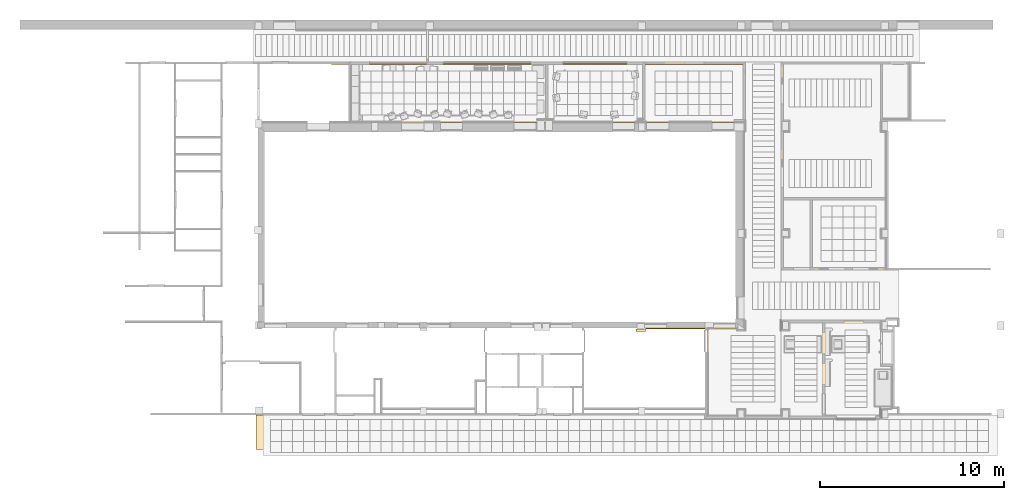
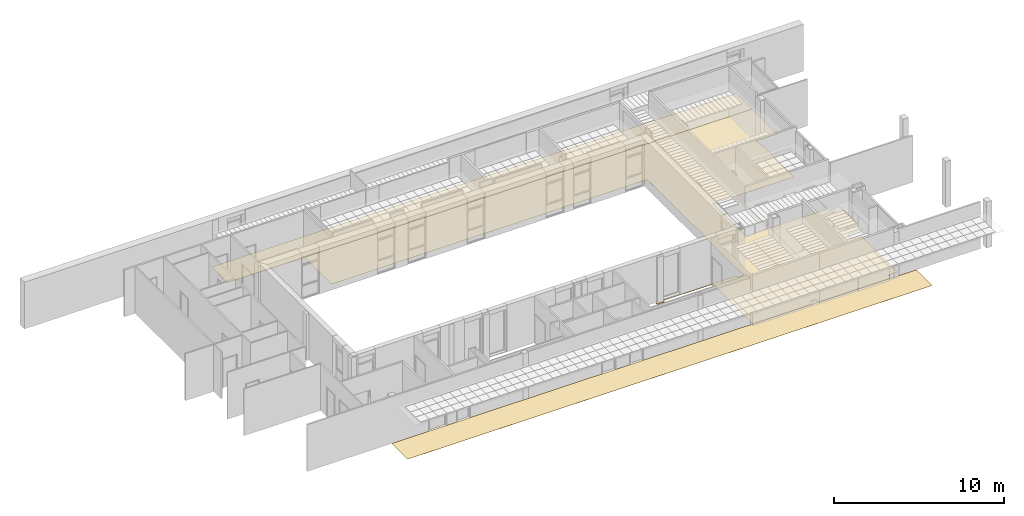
# One storey, part 56 of 60: 4 coverings.
"""IFC2X3 building model written with IfcOpenShell, lengths in millimetres."""

from ifc_helpers import new_model, entity, si_unit, converted_unit, derived_unit, money_unit, direction, frame, origin_with_axes, place, context, subcontext, project, spatial, polyline, outline, extrude, material, type_object, element, save


model = new_model("IFC2X3")

# Units and contexts
model_context = context("Model", 3, precision=0.01, world=origin_with_axes(), true_north=direction((0.0, 1.0)))
body_context = subcontext(model_context, "Body", "Model", "MODEL_VIEW")
ifc_project = project(units=[si_unit("LENGTHUNIT", "METRE", prefix="MILLI"), si_unit("AREAUNIT", "SQUARE_METRE"), si_unit("VOLUMEUNIT", "CUBIC_METRE"), converted_unit("PLANEANGLEUNIT", "DEGREE", entity("IfcPlaneAngleMeasure", 0.0174532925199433), si_unit("PLANEANGLEUNIT", "RADIAN"), dimensions=[0, 0, 0, 0, 0, 0, 0]), money_unit("USD"), converted_unit("TIMEUNIT", "Year", entity("IfcTimeMeasure", 31557600.0), si_unit("TIMEUNIT", "SECOND"), dimensions=[0, 0, 1, 0, 0, 0, 0]), si_unit("MASSUNIT", "GRAM", prefix="KILO"), si_unit("THERMODYNAMICTEMPERATUREUNIT", "DEGREE_CELSIUS"), si_unit("LUMINOUSINTENSITYUNIT", "LUMEN"), si_unit("ENERGYUNIT", "JOULE", prefix="MEGA"), derived_unit("THERMALCONDUCTANCEUNIT", [(si_unit("POWERUNIT", "WATT"), 1), (si_unit("LENGTHUNIT", "METRE"), -1), (si_unit("THERMODYNAMICTEMPERATUREUNIT", "KELVIN"), -1)]), derived_unit("SPECIFICHEATCAPACITYUNIT", [(si_unit("ENERGYUNIT", "JOULE"), 1), (si_unit("MASSUNIT", "GRAM", prefix="KILO"), -1), (si_unit("THERMODYNAMICTEMPERATUREUNIT", "KELVIN"), -1)]), derived_unit("MASSDENSITYUNIT", [(si_unit("MASSUNIT", "GRAM", prefix="KILO"), 1), (si_unit("VOLUMEUNIT", "CUBIC_METRE"), -1)])], contexts=[model_context])

# Site, building, storey
site_placement = place(None, origin_with_axes())
site = spatial("IfcSite", under=ifc_project, at=site_placement, Name="Sitio", CompositionType="ELEMENT")
building_placement = place(site_placement, origin_with_axes())
building = spatial("IfcBuilding", under=site, at=building_placement, Name="Construcción", CompositionType="ELEMENT")
storey_placement = place(building_placement, frame((0.0, 0.0, 3650.0), z_axis=(0.0, 0.0, 1.0), x_axis=(1.0, 0.0, 0.0)))
storey = spatial("IfcBuildingStorey", under=building, at=storey_placement, Name="PLANTA 2ª", CompositionType="ELEMENT", Elevation=3650.0)

# Coverings
ifc_material_1 = material(Name="ARQ_AM253_Tarkett IQ Clar")
covering_type_1 = type_object("IfcCoveringType", Name="ARQ_AM253_Tarkett IQ Clar 2", PredefinedType="NOTDEFINED")
covering_1_placement = place(storey_placement, frame((-7503.394198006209, -12547.56065481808, 1.99999999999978), z_axis=(0.0, 0.0, 1.0), x_axis=(1.0, 0.0, 0.0)))
element("IfcCovering", 1, at=covering_1_placement, inside=storey, type_object=covering_type_1, material=ifc_material_1, Name="SLA - 013", PredefinedType="NOTDEFINED", context=body_context, shape_type="SweptSolid", body=[
    extrude(outline(polyline([(0.0, 0.0), (506.0012945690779, 0.0), (506.0012945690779, 155.5854951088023), (0.0, 155.5854951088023), (0.0, 0.0)])), frame((0.0, 0.0, -2.0), z_axis=(0.0, 0.0, 1.0), x_axis=(1.0, 0.0, 0.0)), (0.0, 0.0, 1.0), 2.0),
])
covering_2_placement = place(storey_placement, frame((-23046.79127057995, -1194.060466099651, 1.99999999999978), z_axis=(0.0, 0.0, 1.0), x_axis=(1.0, 0.0, 0.0)))
element("IfcCovering", 2, at=covering_2_placement, inside=storey, type_object=covering_type_1, material=ifc_material_1, Name="SLA - 013", PredefinedType="NOTDEFINED", context=body_context, shape_type="SweptSolid", body=[
    extrude(outline(polyline([(0.0, 0.0), (21415.68221420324, 0.4257045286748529), (21415.68226671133, -5744.914141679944), (21490.68231822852, -5744.914140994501), (21490.68231822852, -6309.916223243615), (21430.53086546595, -6309.919109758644), (21430.74354567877, -10741.91535714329), (21481.89712513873, -10741.91535714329), (21481.89712513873, -11297.91552229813), (21022.68226369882, -11297.91552229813), (21022.68226369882, -11144.91535761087), (16049.39836714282, -11144.91535761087), (16049.39836714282, -11197.91469360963), (19409.1109527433, -11197.91469360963), (19407.85475487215, -12496.66086946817), (19401.92006773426, -15936.90265187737), (23474.9647283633, -15936.91519291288), (23475.68231822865, -15594.91519223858), (23825.68232107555, -15594.91557950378), (23825.13651016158, -15948.91435135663), (25669.70424323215, -15951.75838721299), (25669.80604427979, -15885.73287376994), (26436.7046010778, -15886.91531177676), (26436.40240035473, -16082.91484583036), (28536.62750905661, -16086.15306550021), (28536.62750905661, -15947.42707732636), (28810.68231822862, -15947.42707732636), (28810.68231822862, -15544.91519242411), (29425.68230876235, -15544.91518481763), (29425.68225619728, -11294.91535017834), (28825.68226566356, -11294.91535759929), (28826.53124438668, -10744.8078339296), (29828.89712513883, -10744.78790873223), (29828.89712513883, -8013.360528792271), (29128.89712513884, -8013.360528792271), (29062.89712513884, -6310.915357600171), (29062.89712513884, -7879.360528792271), (25120.21096602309, -7879.360528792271), (25120.21096602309, -4073.264073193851), (29045.68226566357, -4073.264073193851), (29045.68226566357, -514.9153576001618), (28931.68226566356, 226.0844776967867), (30378.89712513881, 226.0844776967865), (30378.89712513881, 3193.61533683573), (-5230.609201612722, 3193.61533683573), (18.40512763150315, 3163.072636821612), (0.0, 0.0)]), holes=[polyline([(23539.68226566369, -4073.264073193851), (24998.21096602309, -4073.264073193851), (24998.21096602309, -7879.360528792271), (23539.68226566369, -7879.360528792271), (23539.68226566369, -4073.264073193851)])]), frame((0.0, 0.0, -2.0), z_axis=(0.0, 0.0, 1.0), x_axis=(1.0, 0.0, 0.0)), (0.0, 0.0, 1.0), 2.0),
])
ifc_material_2 = material(Name="ARQ_AM253_Tarkett IQ Habitacions")
covering_type_2 = type_object("IfcCoveringType", Name="ARQ_AM253_Tarkett IQ Habitacions 2", PredefinedType="NOTDEFINED")
covering_3_placement = place(storey_placement, frame((7332.105854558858, 1999.554870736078, 1.99999999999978), z_axis=(0.0, 0.0, 1.0), x_axis=(1.0, 0.0, 0.0)))
element("IfcCovering", 3, at=covering_3_placement, inside=storey, type_object=covering_type_2, material=ifc_material_2, Name="SLA - 013", PredefinedType="NOTDEFINED", context=body_context, shape_type="SweptSolid", body=[
    extrude(outline(polyline([(0.0, 0.0), (0.0, 1863.898443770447), (-35599.64063106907, 1863.898443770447), (-35609.50632675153, 0.0), (0.0, 0.0)])), frame((0.0, 0.0, -2.0), z_axis=(0.0, 0.0, 1.0), x_axis=(1.0, 0.0, 0.0)), (0.0, 0.0, 1.0), 2.0),
])
covering_4_placement = place(storey_placement, frame((7463.443627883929, -18947.87426748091, 1.99999999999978), z_axis=(0.0, 0.0, 1.0), x_axis=(1.0, 0.0, 0.0)))
element("IfcCovering", 4, at=covering_4_placement, inside=storey, type_object=covering_type_2, material=ifc_material_2, Name="SLA - 013", PredefinedType="NOTDEFINED", context=body_context, shape_type="SweptSolid", body=[
    extrude(outline(polyline([(0.0, 0.0), (0.0, 1863.898443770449), (-35599.64063106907, 1863.898443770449), (-35609.50632675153, 0.0), (0.0, 0.0)])), frame((0.0, 0.0, -2.0), z_axis=(0.0, 0.0, 1.0), x_axis=(1.0, 0.0, 0.0)), (0.0, 0.0, 1.0), 2.0),
])

save(model, "model.ifc")
